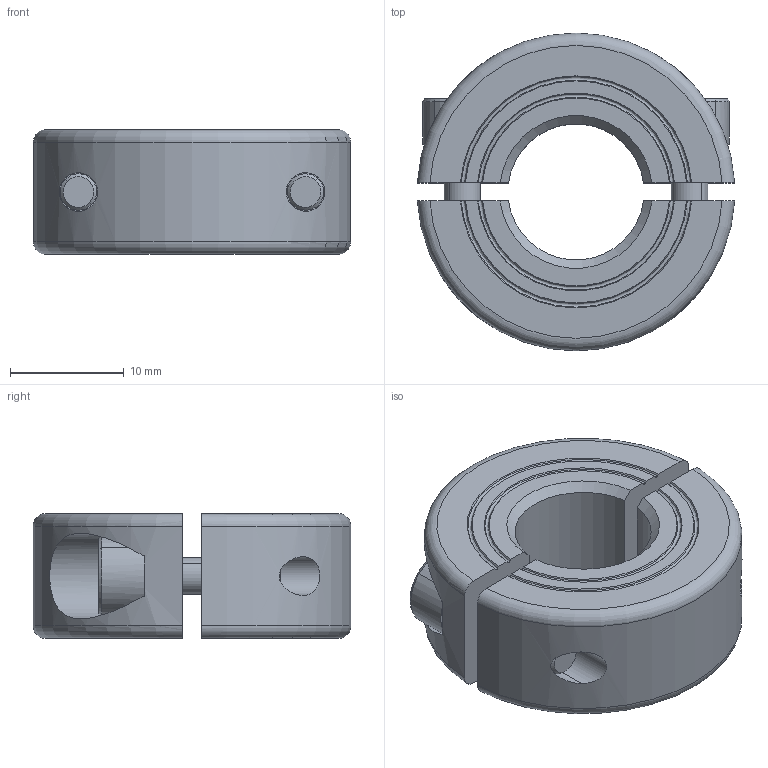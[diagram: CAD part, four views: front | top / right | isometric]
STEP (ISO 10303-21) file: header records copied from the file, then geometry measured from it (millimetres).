
FILE_DESCRIPTION((''),'2;1');
FILE_NAME('MSP-12-X','2016-09-09T',('SYSTEM'),(''),'PRO/ENGINEER BY PARAMETRIC TECHNOLOGY CORPORATION, 2015110','PRO/ENGINEER BY PARAMETRIC TECHNOLOGY CORPORATION, 2015110','');
FILE_SCHEMA(('AUTOMOTIVE_DESIGN { 1 0 10303 214 1 1 1 1 }'));
Length unit declared in the file: inch
Products named in the file (1): MSP-12-X
Bounding box: 27.95 x 28 x 11 mm (x, y, z)
Volume: 4927.6 mm3; surface area: 3392.3 mm2
Topology: 2 solids, 2 shells, 90 faces, 226 edges, 148 vertices
Faces by surface type: plane 36, cylinder 26, cone 20, torus 8
Entity records: 3626 total; most frequent: CARTESIAN_POINT 797, ORIENTED_EDGE 452, DIRECTION 430, EDGE_CURVE 226, AXIS2_PLACEMENT_3D 168, VERTEX_POINT 148, EDGE_LOOP 102, VECTOR 94
